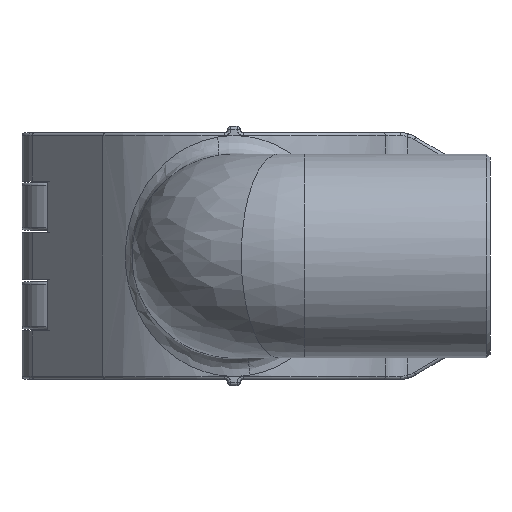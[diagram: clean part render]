
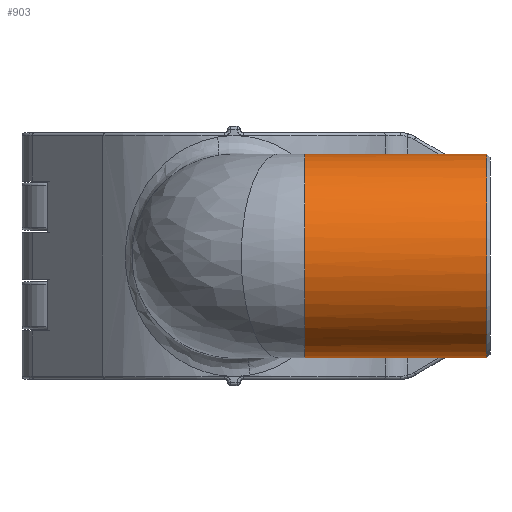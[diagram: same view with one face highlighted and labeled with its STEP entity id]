
A CAD part, front view. The second image highlights one B-rep face of the part: STEP entity #903.
In plain terms, the highlighted cylindrical face has radius 16.5 mm (diameter 33 mm), a partial arc.
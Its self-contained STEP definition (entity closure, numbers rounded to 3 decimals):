
#290=CYLINDRICAL_SURFACE('',#6270,16.5);
#445=B_SPLINE_CURVE_WITH_KNOTS('',3,(#13330,#13331,#13332,#13333,#13334,
#13335,#13336,#13337,#13338,#13339,#13340,#13341,#13342,#13343,#13344,#13345,
#13346,#13347,#13348,#13349,#13350),.UNSPECIFIED.,.F.,.F.,(4,1,1,1,1,1,1,
1,1,1,1,1,1,1,1,1,1,1,4),(0.,0.016,0.035,0.109,
0.183,0.258,0.332,0.406,0.48,
0.517,0.555,0.592,0.629,
0.703,0.777,0.852,0.926,
0.963,1.),.UNSPECIFIED.);
#903=ADVANCED_FACE('',(#1281),#290,.T.);
#1281=FACE_OUTER_BOUND('',#1648,.T.);
#1648=EDGE_LOOP('',(#3522,#3523,#3524,#3525));
#1904=LINE('',#13687,#2112);
#1905=LINE('',#13689,#2113);
#2112=VECTOR('',#7754,1.);
#2113=VECTOR('',#7755,1.);
#3522=ORIENTED_EDGE('',*,*,#5018,.T.);
#3523=ORIENTED_EDGE('',*,*,#5013,.F.);
#3524=ORIENTED_EDGE('',*,*,#5017,.F.);
#3525=ORIENTED_EDGE('',*,*,#5071,.F.);
#4258=VERTEX_POINT('',#13329);
#4259=VERTEX_POINT('',#13351);
#4261=VERTEX_POINT('',#13688);
#4262=VERTEX_POINT('',#13690);
#5013=EDGE_CURVE('',#4258,#4259,#445,.T.);
#5017=EDGE_CURVE('',#4261,#4258,#1904,.T.);
#5018=EDGE_CURVE('',#4262,#4259,#1905,.T.);
#5071=EDGE_CURVE('',#4262,#4261,#5569,.T.);
#5569=CIRCLE('',#6268,16.5);
#6268=AXIS2_PLACEMENT_3D('',#14031,#7850,#7851);
#6270=AXIS2_PLACEMENT_3D('',#14033,#7854,#7855);
#7754=DIRECTION('',(-1.,0.,0.));
#7755=DIRECTION('',(-1.,0.,0.));
#7850=DIRECTION('',(1.,0.,0.));
#7851=DIRECTION('',(0.,0.,1.));
#7854=DIRECTION('',(-1.,0.,0.));
#7855=DIRECTION('',(0.,0.,-1.));
#13329=CARTESIAN_POINT('',(11.502,-46.,-16.5));
#13330=CARTESIAN_POINT('',(11.502,-46.,-16.5));
#13331=CARTESIAN_POINT('',(11.502,-46.256,-16.5));
#13332=CARTESIAN_POINT('',(11.502,-46.801,-16.487));
#13333=CARTESIAN_POINT('',(11.502,-48.547,-16.36));
#13334=CARTESIAN_POINT('',(11.502,-51.31,-15.782));
#13335=CARTESIAN_POINT('',(11.502,-54.914,-14.081));
#13336=CARTESIAN_POINT('',(11.502,-58.082,-11.484));
#13337=CARTESIAN_POINT('',(11.502,-60.506,-8.199));
#13338=CARTESIAN_POINT('',(11.502,-62.014,-4.553));
#13339=CARTESIAN_POINT('',(11.502,-62.504,-1.491));
#13340=CARTESIAN_POINT('',(11.502,-62.511,0.81));
#13341=CARTESIAN_POINT('',(11.502,-62.327,2.609));
#13342=CARTESIAN_POINT('',(11.502,-61.929,4.439));
#13343=CARTESIAN_POINT('',(11.502,-61.098,6.875));
#13344=CARTESIAN_POINT('',(11.502,-59.474,9.81));
#13345=CARTESIAN_POINT('',(11.502,-56.669,12.807));
#13346=CARTESIAN_POINT('',(11.502,-53.252,14.998));
#13347=CARTESIAN_POINT('',(11.502,-50.184,16.046));
#13348=CARTESIAN_POINT('',(11.502,-47.755,16.439));
#13349=CARTESIAN_POINT('',(11.502,-46.583,16.5));
#13350=CARTESIAN_POINT('',(11.502,-46.,16.5));
#13351=CARTESIAN_POINT('',(11.502,-46.,16.5));
#13687=CARTESIAN_POINT('',(41.,-46.,-16.5));
#13688=CARTESIAN_POINT('',(41.,-46.,-16.5));
#13689=CARTESIAN_POINT('',(41.,-46.,16.5));
#13690=CARTESIAN_POINT('',(41.,-46.,16.5));
#14031=CARTESIAN_POINT('',(41.,-46.,0.));
#14033=CARTESIAN_POINT('',(44.279,-46.,0.));
